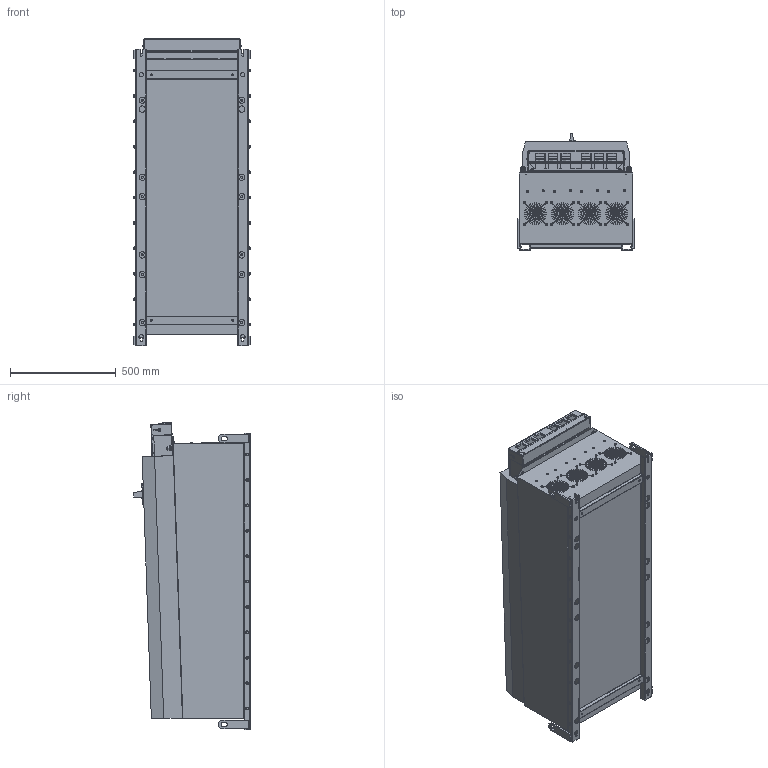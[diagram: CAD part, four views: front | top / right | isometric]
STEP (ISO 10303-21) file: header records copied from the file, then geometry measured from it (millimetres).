
FILE_DESCRIPTION(/* description */ ('raw material description'),/* implementation_level */ '2;1');
FILE_NAME(/* name */ 'C:\Users\Erika.Jenzer\Desktop\STEP\FN344X_FN345X-E2.stp',/* time_stamp */ '2019-06-04T09:59:30+02:00',/* author */ ('erika.jenzer'),/* organization */ ('Schaffner EMV AG'),/* preprocessor_version */ 'ST-DEVELOPER v16.5',/* originating_system */ 'Autodesk Inventor 2017',/* authorisation */ '');
FILE_SCHEMA (('AUTOMOTIVE_DESIGN { 1 0 10303 214 3 1 1 }'));
Products named in the file (3): Assembly9; FILTER; FINGER GUARD J
Assembly tree (2 placements, depth 2):
  Assembly9
    FILTER
    FINGER GUARD J
Bounding box: 550.5 x 551.39 x 1452.5 mm (x, y, z)
Volume: 341425.2 mm3; surface area: 4715210.8 mm2
Topology: 73 solids, 74 shells, 5306 faces, 13508 edges, 8757 vertices
Faces by surface type: plane 3481, cylinder 700, cone 547, bspline 414, torus 152, sphere 12
Full cylindrical faces by diameter (mm): 1.5 x4, 2.9 x4, 3 x10, 3.2 x2, 3.3 x2, 3.5 x2, 3.7 x4, 3.9 x18, 4 x42, 4.1 x4, 4.134 x4, 4.2 x12, 4.3 x4, 5 x12, 5.5 x2, 6 x48, 6.4 x2, 6.717 x6, 6.8 x2, 7.718 x6, 7.9 x4, 8 x22, 8.1 x6, 8.7 x2, 9.17 x6, 9.8 x12, 10 x26, 11 x2, 12 x12, 13 x24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
Entity records: 190888 total; most frequent: CARTESIAN_POINT 63668, ORIENTED_EDGE 25658, DIRECTION 23686, EDGE_CURVE 12771, VERTEX_POINT 8592, LINE 8230, VECTOR 8230, AXIS2_PLACEMENT_3D 7728
